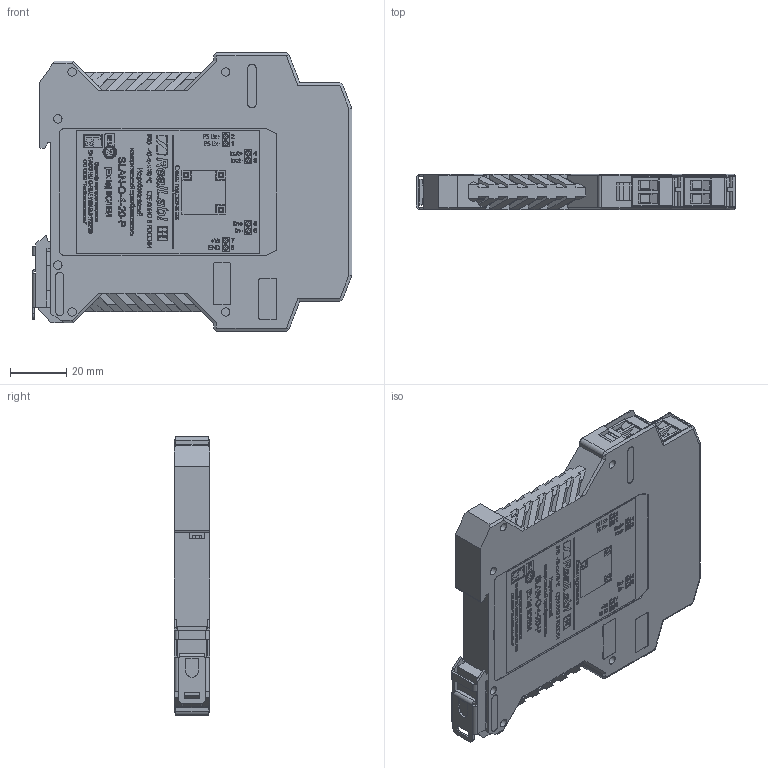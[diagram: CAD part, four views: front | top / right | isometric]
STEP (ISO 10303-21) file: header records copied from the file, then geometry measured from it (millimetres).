
FILE_DESCRIPTION(('STEP AP214'), '1');
FILE_NAME('SLAN-DI-O', '', ('UNSPECIFIED'), ('UNSPECIFIED'), 'C3D Converter', 'C3D Toolkit', '');
FILE_SCHEMA(('AUTOMOTIVE_DESIGN { 1 0 10303 214 3 1 1}'));
Length unit declared in the file: millimetre
Products named in the file (1): НПКГ.426433.009
Bounding box: 113.6 x 12.6 x 99 mm (x, y, z)
Volume: 55936.2 mm3; surface area: 68626 mm2
Topology: 1 solids, 35 shells, 8075 faces, 22208 edges, 14719 vertices
Faces by surface type: plane 4471, extrusion 3266, cylinder 318, cone 20
Full cylindrical faces by diameter (mm): 1.4 x8, 1.8 x1, 1.95 x8, 3 x16, 3.783 x8, 4 x8
Entity records: 334751 total; most frequent: CARTESIAN_POINT 77064, ORIENTED_EDGE 44318, DIRECTION 29153, EDGE_CURVE 22159, VECTOR 18061, LINE 14795, VERTEX_POINT 14719, B_SPLINE_CURVE_WITH_KNOTS 9814
